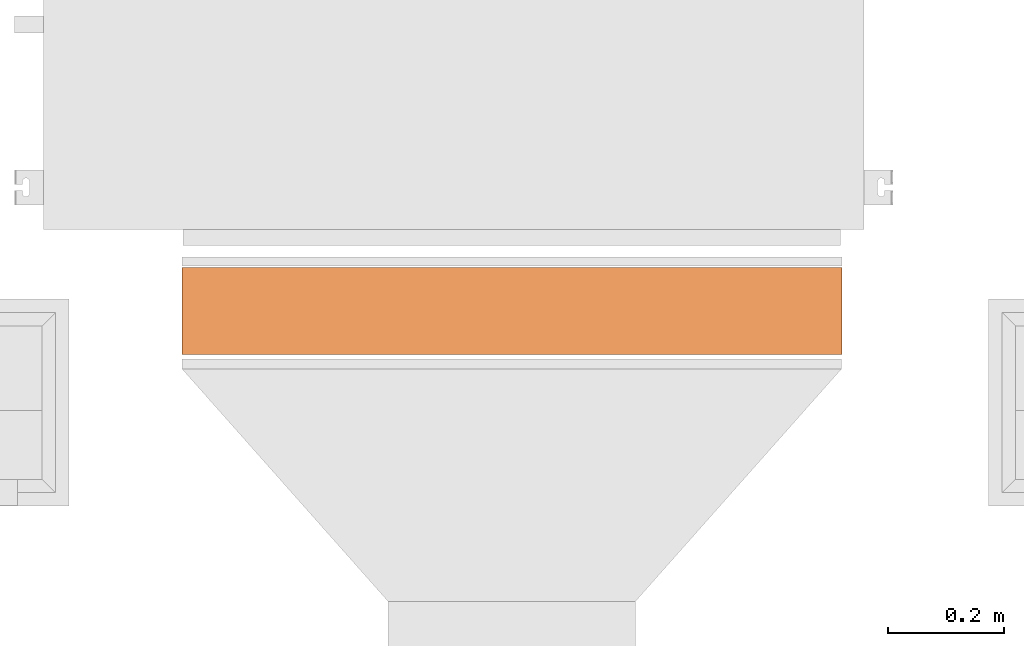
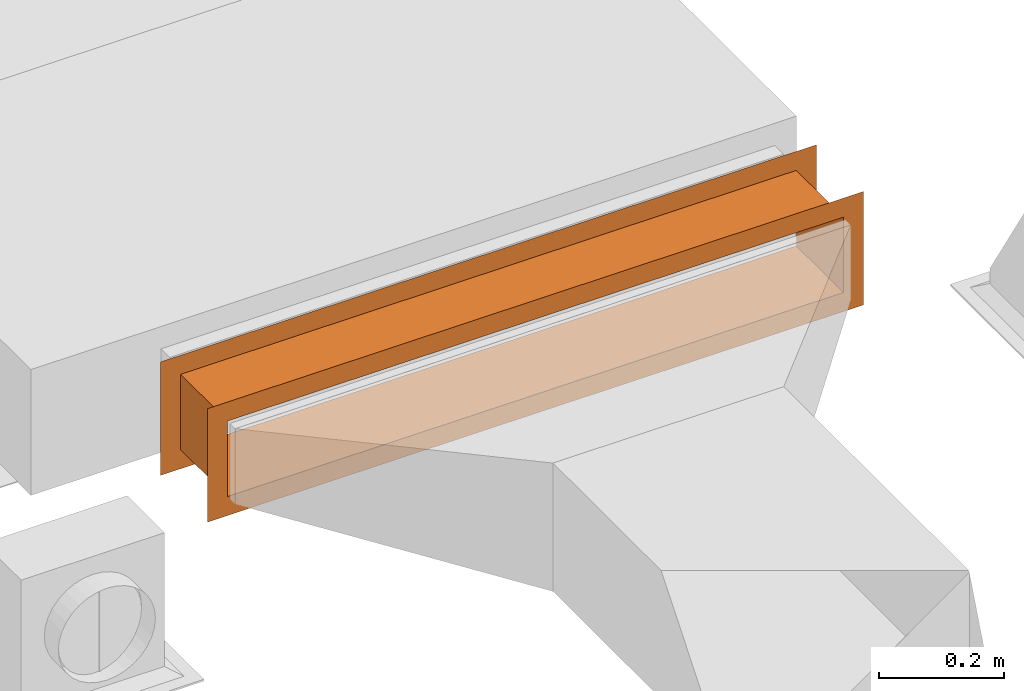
# One storey, part 22 of 22: 1 proxy.
"""IFC2X3 building model written with IfcOpenShell, lengths in millimetres."""

from ifc_helpers import new_model, entity, si_unit, converted_unit, derived_unit, direction, frame, origin, place, context, subcontext, project, spatial, face_set, surface_model, source, transform, mapped, material, type_object, type_shapes, element, save


model = new_model("IFC2X3")

# Units and contexts
model_context = context("Model", 3, precision=0.01, world=origin(), true_north=direction((6.123233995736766e-17, 1.0)))
body_context = subcontext(model_context, "Body", "Model", "MODEL_VIEW")
ifc_project = project(units=[si_unit("LENGTHUNIT", "METRE", prefix="MILLI"), converted_unit("PLANEANGLEUNIT", "DEGREE", entity("IfcPlaneAngleMeasure", 0.017453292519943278), si_unit("PLANEANGLEUNIT", "RADIAN"), dimensions=[0, 0, 0, 0, 0, 0, 0]), si_unit("AREAUNIT", "SQUARE_METRE"), derived_unit("THERMALTRANSMITTANCEUNIT", [(si_unit("MASSUNIT", "GRAM", prefix="KILO"), 1), (si_unit("THERMODYNAMICTEMPERATUREUNIT", "KELVIN"), -1), (si_unit("TIMEUNIT", "SECOND"), -3)])], contexts=[model_context])

# Site, building, storey
site_placement = place(None, origin())
site = spatial("IfcSite", under=ifc_project, at=site_placement, Name="Default", CompositionType="ELEMENT")
building_placement = place(site_placement, origin())
building = spatial("IfcBuilding", under=site, at=building_placement, Name="Praça Pedro II, 1301 - Centro (Sul), Teresina - PI, 64001-100", CompositionType="ELEMENT")
storey_placement = place(building_placement, frame((0.0, 0.0, 320.0)))
storey = spatial("IfcBuildingStorey", under=building, at=storey_placement, Name="TÉRREO +0.32m", CompositionType="ELEMENT", Elevation=319.99999999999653)

# Proxy
ifc_material = material(Name="<Unnamed>")
building_element_proxy_type = type_object("IfcBuildingElementProxyType", Name="Canvas Connection:Canvas Connection", PredefinedType="NOTDEFINED", material=ifc_material)
shared_shape = source(origin(), body_context, "Body", "SurfaceModel", [
    surface_model("IfcFaceBasedSurfaceModel", [(0.0, -566.9999839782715, 73.50000128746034), (150.0000011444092, -566.9999839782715, 73.50000128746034), (150.0000011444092, 566.9999839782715, 73.50000128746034), (0.0, 566.9999839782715, 73.50000128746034), (150.0000011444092, 566.9999839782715, -73.50000128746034), (0.0, 566.9999839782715, -73.50000128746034), (150.0000011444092, -566.9999839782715, -73.50000128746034), (0.0, -566.9999839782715, -73.50000128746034), (0.0010000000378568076, -604.0000147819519, -110.49999575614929), (0.0010000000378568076, -604.0000147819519, 110.49999575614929), (0.0010000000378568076, 604.0000147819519, 110.49999575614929), (0.0010000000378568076, 604.0000147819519, -110.49999575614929), (149.9989928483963, 604.0000147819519, -110.49999575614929), (149.9989928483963, 604.0000147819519, 110.49999575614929), (149.9989928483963, -604.0000147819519, 110.49999575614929), (149.9989928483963, -604.0000147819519, -110.49999575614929)], [face_set([[[0, 1, 2]], [[2, 3, 0]], [[3, 2, 4]], [[4, 5, 3]], [[5, 4, 6]], [[6, 7, 5]], [[7, 6, 1]], [[1, 0, 7]], [[8, 7, 0]], [[0, 9, 8]], [[9, 0, 3]], [[3, 10, 9]], [[10, 3, 5]], [[5, 11, 10]], [[11, 5, 7]], [[7, 8, 11]], [[12, 4, 2]], [[2, 13, 12]], [[13, 2, 1]], [[1, 14, 13]], [[14, 1, 6]], [[6, 15, 14]], [[15, 6, 4]], [[4, 12, 15]]])]),
])
type_shapes(building_element_proxy_type, [shared_shape])
proxy_placement = place(storey_placement, frame((37585.38295556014, -52627.13310843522, 2243.4567470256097), z_axis=(0.0, 0.0, 1.0), x_axis=(0.0, -1.0, 0.0)))
element("IfcBuildingElementProxy", 1, at=proxy_placement, inside=storey, type_object=building_element_proxy_type, material=ifc_material, Name="Canvas Connection:Padrão", ObjectType="Canvas Connection:Padrão", context=body_context, shape_type="MappedRepresentation", body=[
    mapped(shared_shape, transform((0.0, 0.0, 0.0), scale=1.0)),
])

save(model, "model.ifc")
